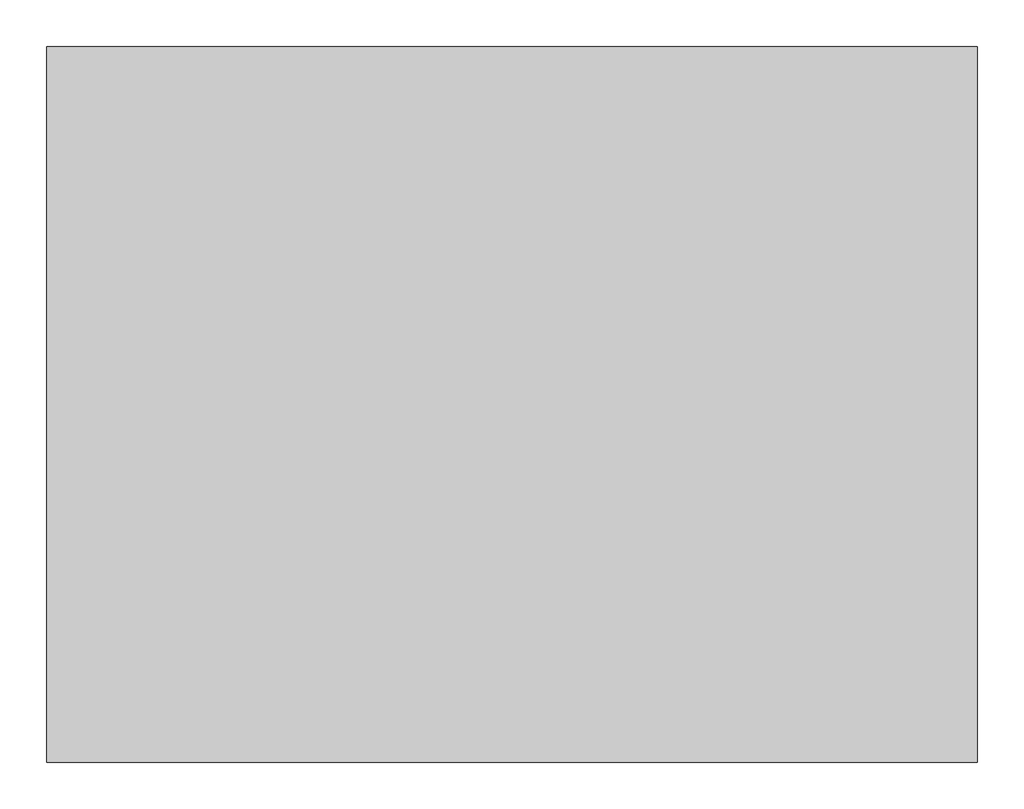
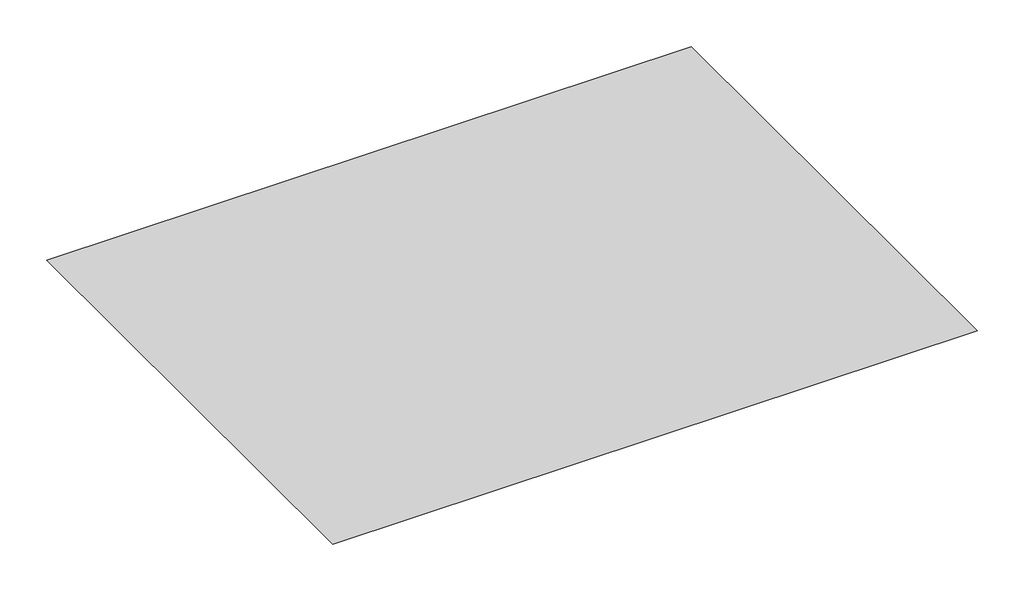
# One storey: 1 proxy.
"""IFC4 building model written with IfcOpenShell, lengths in millimetres."""

import ifcopenshell
import ifcopenshell.guid

model = None  # the IFC model being written
_history = None  # IfcOwnerHistory: only IFC2X3 demands one
_inside = {}  # id of a spatial element -> (the spatial element, [elements in it])
_under = {}  # id of a project, library or spatial element -> (it, [spatial elements below it])
_declared = {}  # id of a project -> (the project, [libraries it declares])
_typed = {}  # id of a type object -> (the type object, [elements of that type])
_made_of = {}  # id of a material, layer set ... -> (it, [elements and type objects made of it])


def new_model(schema):
    """Start an empty IFC model of exactly this schema.

    Asked for "IFC4X3", IfcOpenShell would pick the latest addendum, in which some entities
    have other attributes; the version numbers below select the first issue.
    IFC2X3 requires an IfcOwnerHistory on every rooted entity: one is made here for all.
    """
    global model, _history
    if schema == "IFC4X3":
        model = ifcopenshell.file(schema_version=(4, 3, 0, 0))
    else:
        model = ifcopenshell.file(schema=schema)
    _inside.clear()
    _under.clear()
    _declared.clear()
    _typed.clear()
    _made_of.clear()
    _history = None
    if model.schema == "IFC2X3":
        org = make("IfcOrganization", Name="unknown")
        user = make(
            "IfcPersonAndOrganization",
            ThePerson=make("IfcPerson", FamilyName="unknown"),
            TheOrganization=org,
        )
        app = make(
            "IfcApplication",
            ApplicationDeveloper=org,
            Version="unknown",
            ApplicationFullName="unknown",
            ApplicationIdentifier="unknown",
        )
        _history = make(
            "IfcOwnerHistory",
            OwningUser=user,
            OwningApplication=app,
            ChangeAction="ADDED",
            CreationDate=0,
        )
    return model


def make(cls, **values):
    """One entity of the class cls with the attributes given. An attribute that is None is left unset."""
    return model.create_entity(
        cls, **{name: value for name, value in values.items() if value is not None}
    )


def rooted(cls, **values):
    """An entity with a GlobalId (a new one), such as an element, a storey or a relation."""
    return make(cls, GlobalId=ifcopenshell.guid.new(), OwnerHistory=_history, **values)


def si_unit(unit_type, name, prefix=None):
    """IfcSIUnit, for example si_unit("LENGTHUNIT", "METRE", prefix="MILLI")."""
    return make("IfcSIUnit", UnitType=unit_type, Prefix=prefix, Name=name)


def assignment(units):
    """IfcUnitAssignment: the units of a project."""
    return None if units is None else make("IfcUnitAssignment", Units=units)


def point(xyz):
    """IfcCartesianPoint."""
    return None if xyz is None else make("IfcCartesianPoint", Coordinates=xyz)


def direction(xyz):
    """IfcDirection."""
    return None if xyz is None else make("IfcDirection", DirectionRatios=xyz)


def frame(location, z_axis=None, x_axis=None):
    """IfcAxis2Placement3D, a coordinate frame: its origin and axes. An axis left out is left unset."""
    return make(
        "IfcAxis2Placement3D",
        Location=point(location),
        Axis=direction(z_axis),
        RefDirection=direction(x_axis),
    )


def origin():
    """The frame at (0, 0, 0) with its axes left unset."""
    return frame((0.0, 0.0, 0.0))


def place(relative_to, where):
    """IfcLocalPlacement: puts the frame where relative to a parent placement (None: the world)."""
    return make(
        "IfcLocalPlacement", PlacementRelTo=relative_to, RelativePlacement=where
    )


def context(
    kind, dimensions, precision=None, world=None, true_north=None, identifier=None
):
    """IfcGeometricRepresentationContext, for example the 3D "Model" context."""
    return make(
        "IfcGeometricRepresentationContext",
        ContextIdentifier=identifier,
        ContextType=kind,
        CoordinateSpaceDimension=dimensions,
        Precision=precision,
        WorldCoordinateSystem=world,
        TrueNorth=true_north,
    )


def project(units=None, contexts=None):
    """IfcProject with its units and contexts."""
    return rooted(
        "IfcProject",
        Name="project",
        RepresentationContexts=contexts,
        UnitsInContext=assignment(units),
    )


def spatial(cls, under=None, at=None, **own):
    """A site, building, storey or space (cls), placed at a placement, below another one or the project."""
    s = rooted(cls, ObjectPlacement=at, **own)
    if under is not None:
        _under.setdefault(under.id(), (under, []))[1].append(s)
    return s


def point_list(points):
    """IfcCartesianPointList2D or 3D."""
    cls = (
        "IfcCartesianPointList2D" if len(points[0]) == 2 else "IfcCartesianPointList3D"
    )
    return make(cls, CoordList=points)


def triangles(points, corners, closed=None, point_numbers=None):
    """IfcTriangulatedFaceSet: each triangle names its three corners, points numbered from 1."""
    return make(
        "IfcTriangulatedFaceSet",
        Coordinates=point_list(points),
        Closed=closed,
        CoordIndex=corners,
        PnIndex=point_numbers,
    )


def shape(context_of_items, identifier, shape_type, items):
    """IfcShapeRepresentation: the items that make up one representation, for example the "Body"."""
    return make(
        "IfcShapeRepresentation",
        ContextOfItems=context_of_items,
        RepresentationIdentifier=identifier,
        RepresentationType=shape_type,
        Items=items,
    )


def made_of(thing, what):
    """Note that an element or type object is made of a material, layer set ...; save() writes the relation."""
    if what is not None:
        _made_of.setdefault(what.id(), (what, []))[1].append(thing)
    return thing


def element(
    cls,
    number,
    at=None,
    inside=None,
    cuts=None,
    type_object=None,
    material=None,
    context=None,
    identifier="Body",
    shape_type=None,
    held_by="IfcProductDefinitionShape",
    body=None,
    shapes=None,
    **own,
):
    """One element of the class cls, such as IfcWall. Its Tag is "e" and its number.

    at: its placement. inside: the storey or other place that contains it. cuts: it is an
    opening in that element (IfcRelVoidsElement). A single representation is given by context,
    identifier, shape_type and body (its items); several are given by shapes. held_by: the class
    of the entity that holds the representations. save() writes the other relations.
    """
    e = rooted(cls, Tag="e%d" % number, ObjectPlacement=at, **own)
    if body is not None:
        shapes = [shape(context, identifier, shape_type, body)]
    if shapes is not None:
        e.Representation = make(held_by, Representations=shapes)
    if inside is not None:
        _inside.setdefault(inside.id(), (inside, []))[1].append(e)
    if cuts is not None:
        rooted(
            "IfcRelVoidsElement", RelatingBuildingElement=cuts, RelatedOpeningElement=e
        )
    if type_object is not None:
        _typed.setdefault(type_object.id(), (type_object, []))[1].append(e)
    return made_of(e, material)


def aggregate(whole, parts):
    """IfcRelAggregates: a whole, such as a stair, and the parts it consists of."""
    return rooted("IfcRelAggregates", RelatingObject=whole, RelatedObjects=parts)


def save(model, path):
    """Write the relations noted so far, then the file.

    IfcRelAggregates (storeys below a building ...), IfcRelContainedInSpatialStructure (elements
    in a storey), IfcRelDefinesByType, IfcRelAssociatesMaterial and IfcRelDeclares: one each for
    every whole, place, type object, material and project.
    """
    for whole, parts in _under.values():
        aggregate(whole, parts)
    for where, things in _inside.values():
        rooted(
            "IfcRelContainedInSpatialStructure",
            RelatedElements=things,
            RelatingStructure=where,
        )
    for kind, things in _typed.values():
        rooted("IfcRelDefinesByType", RelatedObjects=things, RelatingType=kind)
    for what, things in _made_of.values():
        rooted("IfcRelAssociatesMaterial", RelatedObjects=things, RelatingMaterial=what)
    for by, libraries in _declared.values():
        rooted("IfcRelDeclares", RelatingContext=by, RelatedDefinitions=libraries)
    model.write(path)


model = new_model("IFC4")

# Units and contexts
model_context = context("Model", 3, world=origin())
ifc_project = project(units=[si_unit("LENGTHUNIT", "METRE", prefix="MILLI")], contexts=[model_context])

# Site, building, storey
site = spatial("IfcSite", under=ifc_project)
building = spatial("IfcBuilding", under=site)
storey = spatial("IfcBuildingStorey", under=building, Name="設計GL", Elevation=0.0)

# Proxy
placement = place(None, origin())
element("IfcBuildingElementProxy", 1, Name="Building Element Proxy", at=placement, inside=storey, context=model_context, shape_type="Tessellation", body=[
    triangles([(-33312.7387207, 24894.222345, 0.0), (31687.2611938, 24894.222345, 0.0), (31687.2611938, -25105.7768738, 0.0), (-33312.7387207, -25105.7768738, 0.0)], [[1, 4, 3], [3, 2, 1]], closed=False),
])

save(model, "model.ifc")
